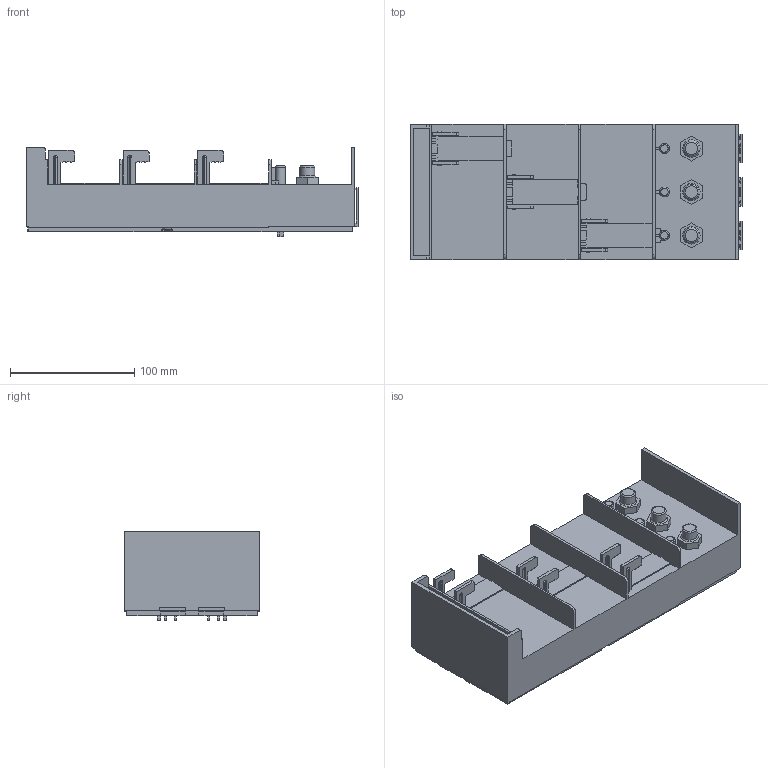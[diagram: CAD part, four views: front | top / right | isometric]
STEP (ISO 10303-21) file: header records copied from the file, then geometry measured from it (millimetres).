
FILE_DESCRIPTION (( 'STEP AP203' ), '1' );
FILE_NAME ('55018.STEP', '2021-08-25T00:08:30', ( '' ), ( '' ), 'SwSTEP 2.0', 'SolidWorks 2017', '' );
FILE_SCHEMA (( 'CONFIG_CONTROL_DESIGN' ));
Length unit declared in the file: millimetre
Products named in the file (2): 55018
Bounding box: 267.5 x 109 x 72 mm (x, y, z)
Volume: 928211.2 mm3; surface area: 210852.5 mm2
Topology: 6 solids, 15 shells, 1589 faces, 4405 edges, 2900 vertices
Faces by surface type: plane 1204, cylinder 270, bspline 48, cone 40, torus 27
Full cylindrical faces by diameter (mm): 2.5 x2, 3.2 x3, 3.3 x12, 4.2 x5, 4.5 x5, 5.6 x2, 7 x3, 8 x11, 8.3 x2, 8.5 x12, 9 x8, 10 x3, 12 x3
Entity records: 51985 total; most frequent: CARTESIAN_POINT 12037, ORIENTED_EDGE 8472, DIRECTION 7635, EDGE_CURVE 4236, VECTOR 3291, LINE 3291, VERTEX_POINT 2844, AXIS2_PLACEMENT_3D 2172
